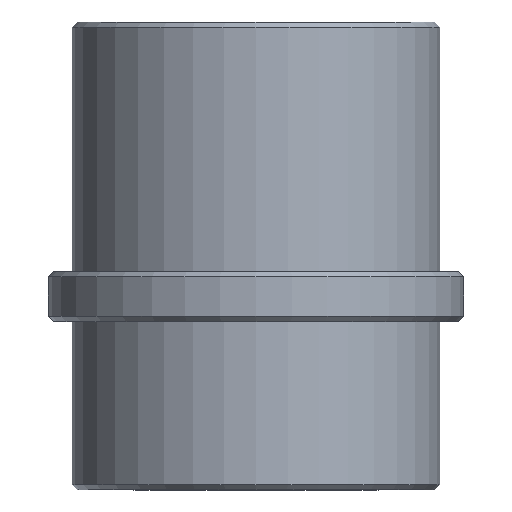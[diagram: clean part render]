
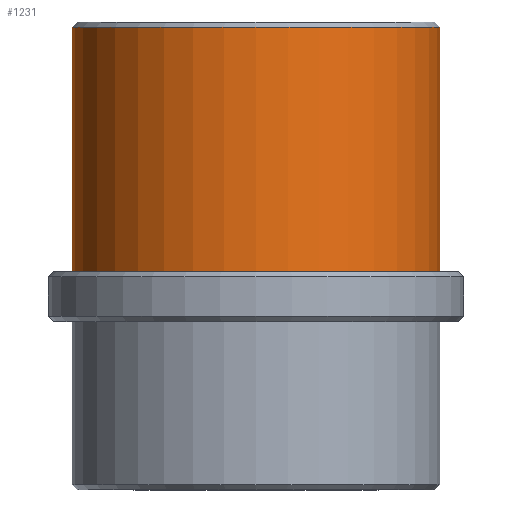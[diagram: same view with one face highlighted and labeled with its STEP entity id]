
A CAD part, front view. The second image highlights one B-rep face of the part: STEP entity #1231.
In plain terms, the highlighted cylindrical face has radius 17.469 mm (diameter 34.938 mm), a partial arc.
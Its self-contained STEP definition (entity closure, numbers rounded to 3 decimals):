
#314=CARTESIAN_POINT('',(0.,0.,27.948));
#315=DIRECTION('',(0.,0.,-1.));
#316=DIRECTION('',(1.,0.,0.));
#317=AXIS2_PLACEMENT_3D('',#314,#315,#316);
#319=DIRECTION('',(0.,0.,-1.));
#320=VECTOR('',#319,23.198);
#321=CARTESIAN_POINT('',(17.469,0.,
27.948));
#322=LINE('',#321,#320);
#323=DIRECTION('',(0.,0.,-1.));
#324=VECTOR('',#323,23.198);
#325=CARTESIAN_POINT('',(-17.469,0.,
27.948));
#326=LINE('',#325,#324);
#1003=CARTESIAN_POINT('',(0.,0.,4.75));
#1004=DIRECTION('',(0.,0.,-1.));
#1005=DIRECTION('',(1.,0.,0.));
#1006=AXIS2_PLACEMENT_3D('',#1003,#1004,#1005);
#1041=CARTESIAN_POINT('',(17.469,0.,4.75));
#1042=CARTESIAN_POINT('',(-17.469,0.,4.75));
#1043=VERTEX_POINT('',#1041);
#1044=VERTEX_POINT('',#1042);
#1075=CARTESIAN_POINT('',(17.469,0.,27.948));
#1076=CARTESIAN_POINT('',(-17.469,0.,27.948));
#1077=VERTEX_POINT('',#1075);
#1078=VERTEX_POINT('',#1076);
#1218=CARTESIAN_POINT('',(0.,0.,-18.225));
#1219=DIRECTION('',(0.,0.,1.));
#1220=DIRECTION('',(-1.,0.,0.));
#1221=AXIS2_PLACEMENT_3D('',#1218,#1219,#1220);
#1222=CYLINDRICAL_SURFACE('',#1221,17.469);
#1224=ORIENTED_EDGE('',*,*,#1223,.F.);
#1225=ORIENTED_EDGE('',*,*,#1213,.T.);
#1227=ORIENTED_EDGE('',*,*,#1226,.T.);
#1228=ORIENTED_EDGE('',*,*,#1209,.F.);
#1229=EDGE_LOOP('',(#1224,#1225,#1227,#1228));
#1230=FACE_OUTER_BOUND('',#1229,.F.);
#1231=ADVANCED_FACE('',(#1230),#1222,.T.);
#318=CIRCLE('',#317,17.469);
#1007=CIRCLE('',#1006,17.469);
#1209=EDGE_CURVE('',#1078,#1044,#326,.T.);
#1213=EDGE_CURVE('',#1077,#1043,#322,.T.);
#1223=EDGE_CURVE('',#1077,#1078,#318,.T.);
#1226=EDGE_CURVE('',#1043,#1044,#1007,.T.);
